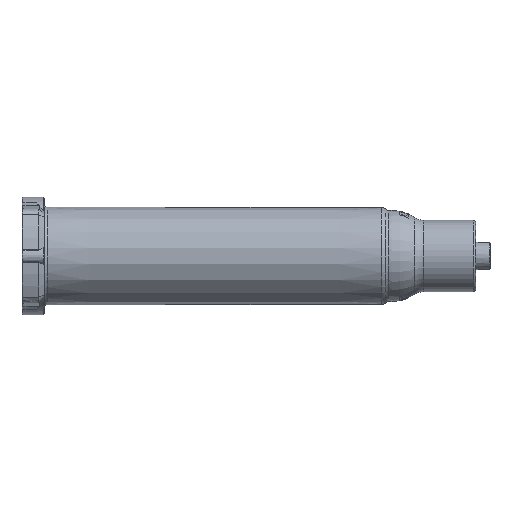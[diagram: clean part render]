
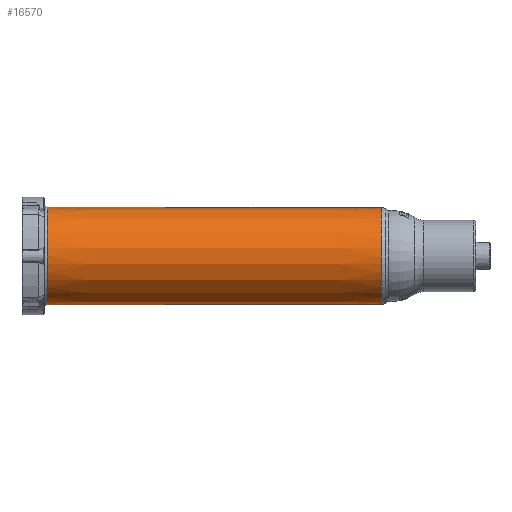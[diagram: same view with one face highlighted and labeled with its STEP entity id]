
A CAD part, left-side view. The second image highlights one B-rep face of the part: STEP entity #16570.
In plain terms, the highlighted conical face has half-angle 0.052 degrees and reference radius 7.255 mm.
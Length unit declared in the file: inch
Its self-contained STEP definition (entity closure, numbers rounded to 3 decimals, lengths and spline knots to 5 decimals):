
#393 = AXIS2_PLACEMENT_3D ( 'NONE', #15438, #9476, #15626 ) ;
#1731 = CIRCLE ( 'NONE', #393, 0.28743 ) ;
#2071 = CARTESIAN_POINT ( 'NONE',  ( 0., 0.6272, 0.28563 ) ) ;
#2226 = CARTESIAN_POINT ( 'NONE',  ( 0., 2.61002, 0.28743 ) ) ;
#3954 = EDGE_LOOP ( 'NONE', ( #7793, #11812, #14634, #6442 ) ) ;
#4383 = CARTESIAN_POINT ( 'NONE',  ( 0., 0.64067, -0.28564 ) ) ;
#4418 = FACE_OUTER_BOUND ( 'NONE', #3954, .T. ) ;
#4530 = VERTEX_POINT ( 'NONE', #4383 ) ;
#5341 = AXIS2_PLACEMENT_3D ( 'NONE', #14730, #5518, #19303 ) ;
#5518 = DIRECTION ( 'NONE',  ( 0., 1., 0. ) ) ;
#6126 = VECTOR ( 'NONE', #18667, 39.37008 ) ;
#6442 = ORIENTED_EDGE ( 'NONE', *, *, #9010, .T. ) ;
#6831 = DIRECTION ( 'NONE',  ( 0., 1., -0.001 ) ) ;
#7793 = ORIENTED_EDGE ( 'NONE', *, *, #16888, .F. ) ;
#8003 = LINE ( 'NONE', #15837, #11266 ) ;
#9010 = EDGE_CURVE ( 'NONE', #9771, #12901, #1731, .T. ) ;
#9476 = DIRECTION ( 'NONE',  ( 0., -1., 0. ) ) ;
#9771 = VERTEX_POINT ( 'NONE', #2226 ) ;
#10576 = CONICAL_SURFACE ( 'NONE', #18294, 0.28563, 0.001 ) ;
#11214 = VERTEX_POINT ( 'NONE', #11356 ) ;
#11266 = VECTOR ( 'NONE', #6831, 39.37008 ) ;
#11356 = CARTESIAN_POINT ( 'NONE',  ( 0., 0.64067, 0.28564 ) ) ;
#11812 = ORIENTED_EDGE ( 'NONE', *, *, #11943, .T. ) ;
#11943 = EDGE_CURVE ( 'NONE', #4530, #11214, #18946, .T. ) ;
#12901 = VERTEX_POINT ( 'NONE', #15847 ) ;
#13720 = DIRECTION ( 'NONE',  ( 0., 1., 0. ) ) ;
#13915 = LINE ( 'NONE', #2071, #6126 ) ;
#14634 = ORIENTED_EDGE ( 'NONE', *, *, #14696, .T. ) ;
#14696 = EDGE_CURVE ( 'NONE', #11214, #9771, #13915, .T. ) ;
#14730 = CARTESIAN_POINT ( 'NONE',  ( 0., 0.64067, 0. ) ) ;
#15161 = CARTESIAN_POINT ( 'NONE',  ( 0., 0.6272, 0. ) ) ;
#15438 = CARTESIAN_POINT ( 'NONE',  ( 0., 2.61002, 0. ) ) ;
#15626 = DIRECTION ( 'NONE',  ( 0., 0., 1. ) ) ;
#15837 = CARTESIAN_POINT ( 'NONE',  ( 0., 0.6272, -0.28563 ) ) ;
#15847 = CARTESIAN_POINT ( 'NONE',  ( 0., 2.61002, -0.28743 ) ) ;
#16570 = ADVANCED_FACE ( 'NONE', ( #4418 ), #10576, .T. ) ;
#16888 = EDGE_CURVE ( 'NONE', #4530, #12901, #8003, .T. ) ;
#18135 = DIRECTION ( 'NONE',  ( 0., 0., 1. ) ) ;
#18294 = AXIS2_PLACEMENT_3D ( 'NONE', #15161, #13720, #18135 ) ;
#18667 = DIRECTION ( 'NONE',  ( 0., 1., 0.001 ) ) ;
#18946 = CIRCLE ( 'NONE', #5341, 0.28564 ) ;
#19303 = DIRECTION ( 'NONE',  ( 0., 0., -1. ) ) ;
